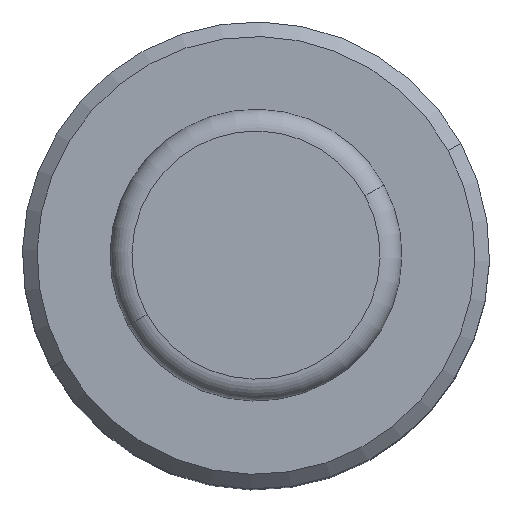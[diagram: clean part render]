
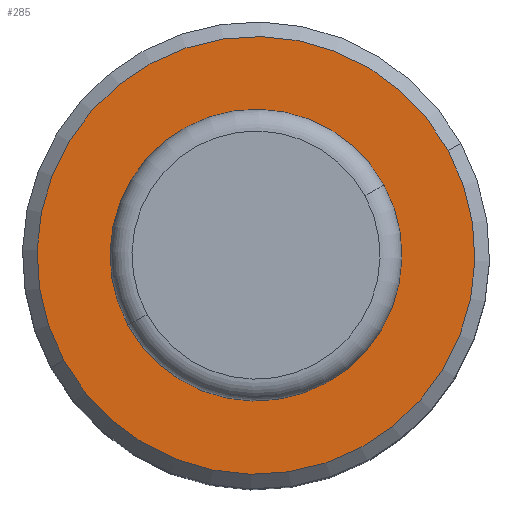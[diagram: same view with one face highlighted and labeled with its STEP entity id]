
A CAD part, top view. The second image highlights one B-rep face of the part: STEP entity #285.
In plain terms, the highlighted planar face has unit normal (0, 0, 1).
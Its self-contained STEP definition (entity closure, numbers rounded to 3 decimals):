
#57=CARTESIAN_POINT('Axis2P3D Location',(0.,0.,45.)) ;
#61=CARTESIAN_POINT('Vertex',(13.164,7.191,45.)) ;
#63=CARTESIAN_POINT('Vertex',(-13.164,-7.191,45.)) ;
#92=CARTESIAN_POINT('Axis2P3D Location',(0.,0.,45.)) ;
#276=CARTESIAN_POINT('Axis2P3D Location',(0.,0.,45.)) ;
#58=DIRECTION('Axis2P3D Direction',(0.,0.,-1.)) ;
#93=DIRECTION('Axis2P3D Direction',(0.,0.,-1.)) ;
#277=DIRECTION('Axis2P3D Direction',(0.,0.,1.)) ;
#278=DIRECTION('Axis2P3D XDirection',(1.,0.,0.)) ;
#59=AXIS2_PLACEMENT_3D('Circle Axis2P3D',#57,#58,$) ;
#94=AXIS2_PLACEMENT_3D('Circle Axis2P3D',#92,#93,$) ;
#279=AXIS2_PLACEMENT_3D('Plane Axis2P3D',#276,#277,#278) ;
#282=ORIENTED_EDGE('',*,*,#65,.T.) ;
#283=ORIENTED_EDGE('',*,*,#96,.T.) ;
#285=ADVANCED_FACE('',(#284),#280,.T.) ;
#60=CIRCLE('generated circle',#59,15.) ;
#95=CIRCLE('generated circle',#94,15.) ;
#65=EDGE_CURVE('',#62,#64,#60,.F.) ;
#96=EDGE_CURVE('',#64,#62,#95,.F.) ;
#281=EDGE_LOOP('',(#282,#283)) ;
#284=FACE_OUTER_BOUND('',#281,.T.) ;
#280=PLANE('Plane',#279) ;
#62=VERTEX_POINT('',#61) ;
#64=VERTEX_POINT('',#63) ;
